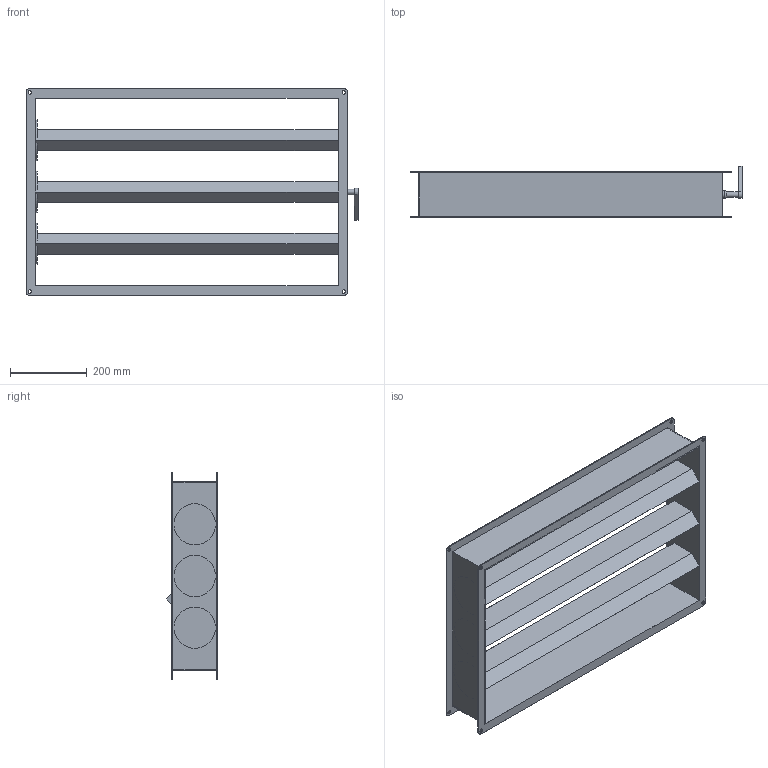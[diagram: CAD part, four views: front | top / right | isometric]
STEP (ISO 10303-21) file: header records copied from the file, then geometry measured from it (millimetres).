
FILE_DESCRIPTION(/* description */ (''),/* implementation_level */ '2;1');
FILE_NAME(/* name */ 'Z:\Output\JVK_80-50-06916-004.stp',/* time_stamp */ '2017-08-28T13:39:29+02:00',/* author */ ('Engineering1'),/* organization */ (''),/* preprocessor_version */ 'ST-DEVELOPER v16.5',/* originating_system */ 'Autodesk Inventor 2017',/* authorisation */ '');
FILE_SCHEMA (('AUTOMOTIVE_DESIGN { 1 0 10303 214 3 1 1 }'));
Length unit declared in the file: millimetre
Products named in the file (1): JVK-1
Bounding box: 867 x 134.14 x 540 mm (x, y, z)
Volume: 12859510.9 mm3; surface area: 1526474.4 mm2
Topology: 1 solids, 1 shells, 87 faces, 237 edges, 152 vertices
Faces by surface type: plane 57, cylinder 27, bspline 3
Full cylindrical faces by diameter (mm): 9 x8, 14 x1, 20 x3
Entity records: 2754 total; most frequent: CARTESIAN_POINT 537, DIRECTION 446, ORIENTED_EDGE 438, EDGE_CURVE 219, LINE 156, VECTOR 156, VERTEX_POINT 146, AXIS2_PLACEMENT_3D 145
